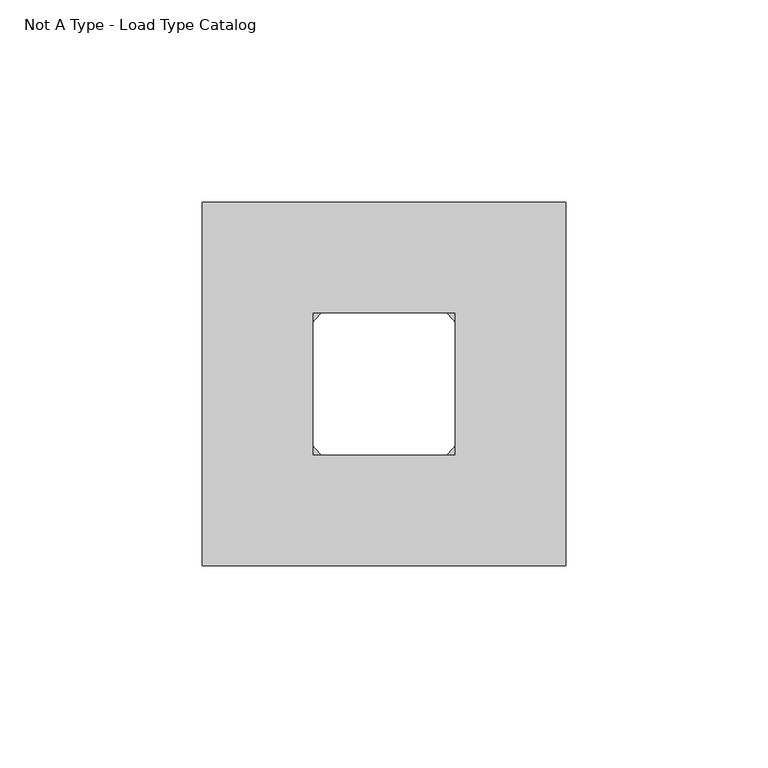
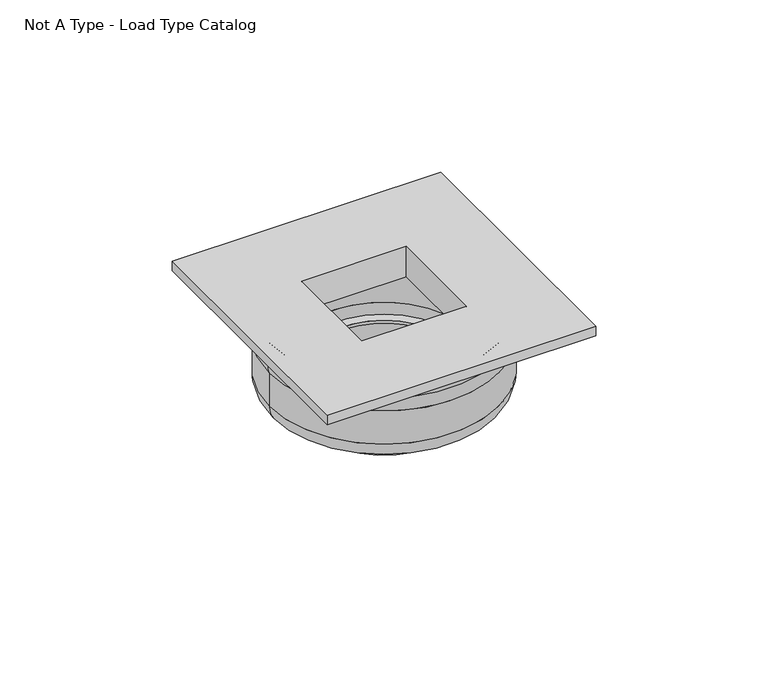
"""IFC4 building model written with IfcOpenShell, lengths in millimetres: flow terminal geometry, Lighting_Ceiling-Mounted_Lucent_Square_Edge_90 : Not A Type - Load Type Catalog."""

from ifc_helpers import new_model, si_unit, point, frame, origin, place, context, project, spatial, polyline, circle_curve, ellipse_curve, trimmed, faceted_brep, source, transform, mapped, element, save
from ifc_brep_helpers import plane_surface, cylinder_surface, revolved_surface, advanced_brep


def not_a_type_load_type_catalog_97315635(model_context):
    return source(origin(), model_context, "Body", "SolidModel", [
        advanced_brep(
        [(-23.4724039, 0.0, -22.8655633), (23.4724039, 0.0, -22.8655633), (26.5, 0.0, -22.8655633), (-26.5, 0.0, -22.8655633), (-23.4724039, 0.0, -23.8655633), (23.4724039, 0.0, -23.8655633), (-25.5, 0.0, -23.8655633), (25.5, 0.0, -23.8655633), (-25.5, 0.0, -35.4), (25.5, 0.0, -35.4), (-26.95, 0.0, -35.4), (26.95, 0.0, -35.4), (-26.95, 0.0, -23.8655633), (26.95, 0.0, -23.8655633), (-38.4932571, 0.0, -23.3812343), (38.4932571, 0.0, -23.3812343), (37.1922508, 0.0, -27.9271739), (-37.1922508, 0.0, -27.9271739), (-38.4932571, 0.0, -11.6295756), (38.4932571, 0.0, -11.6295756), (-38.496505, 0.0, -7.1468124), (38.496505, 0.0, -7.1468124), (-38.496505, 0.0, -1.3969603), (38.496505, 0.0, -1.3969603), (-39.4934653, 0.0, -0.4), (39.4934653, 0.0, -0.4), (-43.5, 0.0, -0.4), (43.5, 0.0, -0.4), (-43.5, 0.0, 0.6), (43.5, 0.0, 0.6), (-29.0363195, 0.0, 0.6), (29.0363196, 0.0, 0.6), (-35.9998111, 0.0, -0.4), (35.9998111, 0.0, -0.4), (30.0103321, 0.0, -0.4), (-30.0103321, 0.0, -0.4), (-35.9998111, 0.0, -24.4), (35.9998111, 0.0, -24.4), (-37.4215064, 0.0, -24.4), (37.4215064, 0.0, -24.4), (-36.3566832, 0.0, -27.4050533), (36.3566832, 0.0, -27.4050533), (-30.0103321, 0.0, -23.8655633), (30.0103321, 0.0, -23.8655633), (-29.0363195, 0.0, -20.3292437), (29.0363196, 0.0, -20.3292437)],
        [
            (0, 1, circle_curve(frame((0.0, 0.0, -22.8655633), z_axis=(0.0, 0.0, -1.0), x_axis=(1.0, 0.0, 0.0)), 23.4724039)),
            (1, 2),
            (2, 3, circle_curve(frame((0.0, 0.0, -22.8655633), z_axis=(0.0, 0.0, 1.0), x_axis=(1.0, 0.0, 0.0)), 26.5)),
            (3, 0),
            (1, 0, circle_curve(frame((0.0, 0.0, -22.8655633), z_axis=(0.0, 0.0, -1.0), x_axis=(1.0, 0.0, 0.0)), 23.4724039)),
            (3, 2, circle_curve(frame((0.0, 0.0, -22.8655633), z_axis=(0.0, 0.0, 1.0), x_axis=(1.0, 0.0, 0.0)), 26.5)),
            (4, 5, circle_curve(frame((0.0, 0.0, -23.8655633), z_axis=(0.0, 0.0, -1.0), x_axis=(1.0, 0.0, 0.0)), 23.4724039)),
            (5, 1),
            (0, 4),
            (5, 4, circle_curve(frame((0.0, 0.0, -23.8655633), z_axis=(0.0, 0.0, -1.0), x_axis=(1.0, 0.0, 0.0)), 23.4724039)),
            (6, 7, circle_curve(frame((0.0, 0.0, -23.8655633), z_axis=(0.0, 0.0, -1.0), x_axis=(1.0, 0.0, 0.0)), 25.5)),
            (7, 5),
            (4, 6),
            (7, 6, circle_curve(frame((0.0, 0.0, -23.8655633), z_axis=(0.0, 0.0, -1.0), x_axis=(1.0, 0.0, 0.0)), 25.5)),
            (8, 9, circle_curve(frame((0.0, 0.0, -35.4), z_axis=(0.0, 0.0, -1.0), x_axis=(1.0, 0.0, 0.0)), 25.5)),
            (9, 7),
            (6, 8),
            (9, 8, circle_curve(frame((0.0, 0.0, -35.4), z_axis=(0.0, 0.0, -1.0), x_axis=(1.0, 0.0, 0.0)), 25.5)),
            (10, 11, circle_curve(frame((0.0, 0.0, -35.4), z_axis=(0.0, 0.0, -1.0), x_axis=(1.0, 0.0, 0.0)), 26.95)),
            (11, 9),
            (8, 10),
            (11, 10, circle_curve(frame((0.0, 0.0, -35.4), z_axis=(0.0, 0.0, -1.0), x_axis=(1.0, 0.0, 0.0)), 26.95)),
            (12, 13, circle_curve(frame((0.0, 0.0, -23.8655633), z_axis=(0.0, 0.0, -1.0), x_axis=(1.0, 0.0, 0.0)), 26.95)),
            (13, 11),
            (10, 12),
            (13, 12, circle_curve(frame((0.0, 0.0, -23.8655633), z_axis=(0.0, 0.0, -1.0), x_axis=(1.0, 0.0, 0.0)), 26.95)),
            (14, 15, circle_curve(frame((0.0, 0.0, -23.3812343), z_axis=(0.0, 0.0, -1.0), x_axis=(1.0, 0.0, 0.0)), 38.4932571)),
            (15, 16, circle_curve(frame((29.9006074, 0.0, -23.3812343), z_axis=(0.0, 1.0, 0.0), x_axis=(1.0, 0.0, 0.0)), 8.5926498)),
            (16, 17, circle_curve(frame((0.0, 0.0, -27.9271739), z_axis=(0.0, 0.0, 1.0), x_axis=(1.0, 0.0, 0.0)), 37.1922508)),
            (17, 14, circle_curve(frame((-29.9006074, 0.0, -23.3812343), z_axis=(0.0, 1.0, 0.0), x_axis=(-1.0, 0.0, 0.0)), 8.5926498)),
            (15, 14, circle_curve(frame((0.0, 0.0, -23.3812343), z_axis=(0.0, 0.0, -1.0), x_axis=(1.0, 0.0, 0.0)), 38.4932571)),
            (17, 16, circle_curve(frame((0.0, 0.0, -27.9271739), z_axis=(0.0, 0.0, 1.0), x_axis=(1.0, 0.0, 0.0)), 37.1922508)),
            (18, 19, circle_curve(frame((0.0, 0.0, -11.6295756), z_axis=(0.0, 0.0, -1.0), x_axis=(1.0, 0.0, 0.0)), 38.4932571)),
            (19, 15),
            (14, 18),
            (19, 18, circle_curve(frame((0.0, 0.0, -11.6295756), z_axis=(0.0, 0.0, -1.0), x_axis=(1.0, 0.0, 0.0)), 38.4932571)),
            (20, 21, circle_curve(frame((0.0, 0.0, -7.1468124), z_axis=(0.0, 0.0, -1.0), x_axis=(1.0, 0.0, 0.0)), 38.496505)),
            (21, 19, circle_curve(frame((33.8084064, 0.0, -9.3847986), z_axis=(0.0, 1.0, 0.0), x_axis=(1.0, 0.0, 0.0)), 5.194887)),
            (18, 20, circle_curve(frame((-33.8084064, 0.0, -9.3847986), z_axis=(0.0, 1.0, 0.0), x_axis=(-1.0, 0.0, 0.0)), 5.194887)),
            (21, 20, circle_curve(frame((0.0, 0.0, -7.1468124), z_axis=(0.0, 0.0, -1.0), x_axis=(1.0, 0.0, 0.0)), 38.496505)),
            (22, 23, circle_curve(frame((0.0, 0.0, -1.3969603), z_axis=(0.0, 0.0, -1.0), x_axis=(1.0, 0.0, 0.0)), 38.496505)),
            (23, 21),
            (20, 22),
            (23, 22, circle_curve(frame((0.0, 0.0, -1.3969603), z_axis=(0.0, 0.0, -1.0), x_axis=(1.0, 0.0, 0.0)), 38.496505)),
            (24, 25, circle_curve(frame((0.0, 0.0, -0.4), z_axis=(0.0, 0.0, -1.0), x_axis=(1.0, 0.0, 0.0)), 39.4934653)),
            (25, 23, circle_curve(frame((39.4934653, 0.0, -1.3969603), z_axis=(0.0, -1.0, 0.0), x_axis=(1.0, 0.0, 0.0)), 0.9969603)),
            (22, 24, circle_curve(frame((-39.4934653, 0.0, -1.3969603), z_axis=(0.0, -1.0, 0.0), x_axis=(-1.0, 0.0, 0.0)), 0.9969603)),
            (25, 24, circle_curve(frame((0.0, 0.0, -0.4), z_axis=(0.0, 0.0, -1.0), x_axis=(1.0, 0.0, 0.0)), 39.4934653)),
            (26, 27, circle_curve(frame((0.0, 0.0, -0.4), z_axis=(0.0, 0.0, -1.0), x_axis=(1.0, 0.0, 0.0)), 43.5)),
            (27, 25),
            (24, 26),
            (27, 26, circle_curve(frame((0.0, 0.0, -0.4), z_axis=(0.0, 0.0, -1.0), x_axis=(1.0, 0.0, 0.0)), 43.5)),
            (28, 29, circle_curve(frame((0.0, 0.0, 0.6), z_axis=(0.0, 0.0, -1.0), x_axis=(1.0, 0.0, 0.0)), 43.5)),
            (29, 27),
            (26, 28),
            (29, 28, circle_curve(frame((0.0, 0.0, 0.6), z_axis=(0.0, 0.0, -1.0), x_axis=(1.0, 0.0, 0.0)), 43.5)),
            (30, 31, circle_curve(frame((0.0, 0.0, 0.6), z_axis=(0.0, 0.0, -1.0), x_axis=(1.0, 0.0, 0.0)), 29.0363195)),
            (31, 29),
            (28, 30),
            (31, 30, circle_curve(frame((0.0, 0.0, 0.6), z_axis=(0.0, 0.0, -1.0), x_axis=(1.0, 0.0, 0.0)), 29.0363195)),
            (32, 33, circle_curve(frame((0.0, 0.0, -0.4), z_axis=(0.0, 0.0, -1.0), x_axis=(1.0, 0.0, 0.0)), 35.9998111)),
            (33, 34),
            (34, 35, circle_curve(frame((0.0, 0.0, -0.4), z_axis=(0.0, 0.0, 1.0), x_axis=(1.0, 0.0, 0.0)), 30.0103321)),
            (35, 32),
            (33, 32, circle_curve(frame((0.0, 0.0, -0.4), z_axis=(0.0, 0.0, -1.0), x_axis=(1.0, 0.0, 0.0)), 35.9998111)),
            (35, 34, circle_curve(frame((0.0, 0.0, -0.4), z_axis=(0.0, 0.0, 1.0), x_axis=(1.0, 0.0, 0.0)), 30.0103321)),
            (36, 37, circle_curve(frame((0.0, 0.0, -24.4), z_axis=(0.0, 0.0, -1.0), x_axis=(1.0, 0.0, 0.0)), 35.9998111)),
            (37, 33),
            (32, 36),
            (37, 36, circle_curve(frame((0.0, 0.0, -24.4), z_axis=(0.0, 0.0, -1.0), x_axis=(1.0, 0.0, 0.0)), 35.9998111)),
            (38, 39, circle_curve(frame((0.0, 0.0, -24.4), z_axis=(0.0, 0.0, -1.0), x_axis=(1.0, 0.0, 0.0)), 37.4215064)),
            (39, 37),
            (36, 38),
            (39, 38, circle_curve(frame((0.0, 0.0, -24.4), z_axis=(0.0, 0.0, -1.0), x_axis=(1.0, 0.0, 0.0)), 37.4215064)),
            (40, 41, circle_curve(frame((0.0, 0.0, -27.4050533), z_axis=(0.0, 0.0, -1.0), x_axis=(1.0, 0.0, 0.0)), 36.3566832)),
            (41, 39, circle_curve(frame((29.9719685, 0.0, -23.451483), z_axis=(0.0, -1.0, 0.0), x_axis=(1.0, 0.0, 0.0)), 7.5096805)),
            (38, 40, circle_curve(frame((-29.9719685, 0.0, -23.451483), z_axis=(0.0, -1.0, 0.0), x_axis=(-1.0, 0.0, 0.0)), 7.5096805)),
            (41, 40, circle_curve(frame((0.0, 0.0, -27.4050533), z_axis=(0.0, 0.0, -1.0), x_axis=(1.0, 0.0, 0.0)), 36.3566832)),
            (16, 41),
            (40, 17),
            (42, 43, circle_curve(frame((0.0, 0.0, -23.8655633), z_axis=(0.0, 0.0, -1.0), x_axis=(1.0, 0.0, 0.0)), 30.0103321)),
            (43, 13),
            (12, 42),
            (43, 42, circle_curve(frame((0.0, 0.0, -23.8655633), z_axis=(0.0, 0.0, -1.0), x_axis=(1.0, 0.0, 0.0)), 30.0103321)),
            (34, 43),
            (42, 35),
            (44, 45, circle_curve(frame((0.0, 0.0, -20.3292437), z_axis=(0.0, 0.0, -1.0), x_axis=(1.0, 0.0, 0.0)), 29.0363195)),
            (45, 31),
            (30, 44),
            (45, 44, circle_curve(frame((0.0, 0.0, -20.3292437), z_axis=(0.0, 0.0, -1.0), x_axis=(1.0, 0.0, 0.0)), 29.0363195)),
            (2, 45, circle_curve(frame((26.5, 0.0, -20.3292437), z_axis=(0.0, -1.0, 0.0), x_axis=(1.0, 0.0, 0.0)), 2.5363195)),
            (44, 3, circle_curve(frame((-26.5, 0.0, -20.3292437), z_axis=(0.0, -1.0, 0.0), x_axis=(-1.0, 0.0, 0.0)), 2.5363195)),
        ],
        [
            plane_surface(frame((0.0, 0.0, -22.8655633), z_axis=(0.0, 0.0, 1.0), x_axis=(1.0, 0.0, 0.0))),
            revolved_surface(polyline([(23.4724039, 0.0, -22.8655633), (23.4724039, 0.0, -23.8655633)]), (0.0, 0.0, 26.7117569), (0.0, 0.0, 1.0)),
            plane_surface(frame((0.0, 0.0, -23.8655633), z_axis=(0.0, 0.0, -1.0), x_axis=(1.0, 0.0, 0.0))),
            revolved_surface(polyline([(25.5, 0.0, -23.8655633), (25.5, 0.0, -35.400000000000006)]), (0.0, 0.0, 26.7117569), (0.0, 0.0, 1.0)),
            plane_surface(frame((0.0, 0.0, -35.4), z_axis=(0.0, 0.0, -1.0), x_axis=(1.0, 0.0, 0.0))),
            cylinder_surface(frame((0.0, 0.0, 26.7117569), z_axis=(0.0, 0.0, 1.0), x_axis=(1.0, 0.0, 0.0)), 26.95),
            revolved_surface(trimmed(ellipse_curve(frame((29.9006074, 0.0, -23.3812343), z_axis=(0.0, -1.0, 0.0), x_axis=(1.0, 0.0, 0.0)), 8.5926498, 8.5926498), [point((37.1922508, 0.0, -27.9271739))], [point((38.4932571, 0.0, -23.3812343))], True, "CARTESIAN"), (0.0, 0.0, 26.7117569), (0.0, 0.0, 1.0)),
            cylinder_surface(frame((0.0, 0.0, 26.7117569), z_axis=(0.0, 0.0, 1.0), x_axis=(1.0, 0.0, 0.0)), 38.4932571),
            revolved_surface(trimmed(ellipse_curve(frame((33.8084064, 0.0, -9.3847986), z_axis=(0.0, -1.0, 0.0), x_axis=(1.0, 0.0, 0.0)), 5.194887, 5.194887), [point((38.4932571, 0.0, -11.6295756))], [point((38.496505, 0.0, -7.1468124))], True, "CARTESIAN"), (0.0, 0.0, 26.7117569), (0.0, 0.0, 1.0)),
            cylinder_surface(frame((0.0, 0.0, 26.7117569), z_axis=(0.0, 0.0, 1.0), x_axis=(1.0, 0.0, 0.0)), 38.496505),
            revolved_surface(trimmed(ellipse_curve(frame((39.4934653, 0.0, -1.3969603), z_axis=(0.0, 1.0, 0.0), x_axis=(1.0, 0.0, 0.0)), 0.9969603, 0.9969603), [point((38.496505, 0.0, -1.3969603))], [point((39.4934653, 0.0, -0.4))], True, "CARTESIAN"), (0.0, 0.0, 26.7117569), (0.0, 0.0, 1.0)),
            plane_surface(frame((0.0, 0.0, -0.4), z_axis=(0.0, 0.0, -1.0), x_axis=(1.0, 0.0, 0.0))),
            cylinder_surface(frame((0.0, 0.0, 26.7117569), z_axis=(0.0, 0.0, 1.0), x_axis=(1.0, 0.0, 0.0)), 43.5),
            plane_surface(frame((0.0, 0.0, 0.6), z_axis=(0.0, 0.0, 1.0), x_axis=(1.0, 0.0, 0.0))),
            revolved_surface(polyline([(35.9998111, 0.0, -0.3999999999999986), (35.9998111, 0.0, -24.400000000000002)]), (0.0, 0.0, 26.7117569), (0.0, 0.0, 1.0)),
            plane_surface(frame((0.0, 0.0, -24.4), z_axis=(0.0, 0.0, -1.0), x_axis=(1.0, 0.0, 0.0))),
            revolved_surface(trimmed(ellipse_curve(frame((29.9719685, 0.0, -23.451483), z_axis=(0.0, 1.0, 0.0), x_axis=(1.0, 0.0, 0.0)), 7.5096805, 7.5096805), [point((37.4215064, 0.0, -24.4))], [point((36.3566832, 0.0, -27.4050533))], True, "CARTESIAN"), (0.0, 0.0, 26.7117569), (0.0, 0.0, 1.0)),
            revolved_surface(polyline([(36.3566832, 0.0, -27.4050533), (37.1922508, 0.0, -27.9271739)]), (0.0, 0.0, 26.7117569), (0.0, 0.0, 1.0)),
            cylinder_surface(frame((0.0, 0.0, 26.7117569), z_axis=(0.0, 0.0, 1.0), x_axis=(1.0, 0.0, 0.0)), 30.0103321),
            revolved_surface(polyline([(29.0363195, 0.0, 0.6000000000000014), (29.0363195, 0.0, -20.329243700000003)]), (0.0, 0.0, 26.7117569), (0.0, 0.0, 1.0)),
            revolved_surface(trimmed(ellipse_curve(frame((26.5, 0.0, -20.3292437), z_axis=(0.0, 1.0, 0.0), x_axis=(1.0, 0.0, 0.0)), 2.5363195, 2.5363195), [point((29.0363196, 0.0, -20.3292437))], [point((26.5, 0.0, -22.8655633))], True, "CARTESIAN"), (0.0, 0.0, 26.7117569), (0.0, 0.0, 1.0)),
        ],
        [
            (0, [[1, 2, 3, 4]]),
            (0, [[5, -4, 6, -2]]),
            (1, [[7, 8, -1, 9]]),
            (1, [[10, -9, -5, -8]]),
            (2, [[11, 12, -7, 13]]),
            (2, [[14, -13, -10, -12]]),
            (3, [[15, 16, -11, 17]]),
            (3, [[18, -17, -14, -16]]),
            (4, [[19, 20, -15, 21]]),
            (4, [[22, -21, -18, -20]]),
            (5, [[23, 24, -19, 25]]),
            (5, [[26, -25, -22, -24]]),
            (6, [[27, 28, 29, 30]]),
            (6, [[31, -30, 32, -28]]),
            (7, [[33, 34, -27, 35]]),
            (7, [[36, -35, -31, -34]]),
            (8, [[37, 38, -33, 39]]),
            (8, [[40, -39, -36, -38]]),
            (9, [[41, 42, -37, 43]]),
            (9, [[44, -43, -40, -42]]),
            (10, [[45, 46, -41, 47]]),
            (10, [[48, -47, -44, -46]]),
            (11, [[49, 50, -45, 51]]),
            (11, [[52, -51, -48, -50]]),
            (12, [[53, 54, -49, 55]]),
            (12, [[56, -55, -52, -54]]),
            (13, [[57, 58, -53, 59]]),
            (13, [[60, -59, -56, -58]]),
            (11, [[61, 62, 63, 64]]),
            (11, [[65, -64, 66, -62]]),
            (14, [[67, 68, -61, 69]]),
            (14, [[70, -69, -65, -68]]),
            (15, [[71, 72, -67, 73]]),
            (15, [[74, -73, -70, -72]]),
            (16, [[75, 76, -71, 77]]),
            (16, [[78, -77, -74, -76]]),
            (17, [[-29, 79, -75, 80]]),
            (17, [[-32, -80, -78, -79]]),
            (2, [[81, 82, -23, 83]]),
            (2, [[84, -83, -26, -82]]),
            (18, [[-63, 85, -81, 86]]),
            (18, [[-66, -86, -84, -85]]),
            (19, [[87, 88, -57, 89]]),
            (19, [[90, -89, -60, -88]]),
            (20, [[-3, 91, -87, 92]]),
            (20, [[-6, -92, -90, -91]]),
        ],
    ),
        faceted_brep([(20.5015906, 20.5, -7.68125), (20.5015906, -20.5, -7.68125), (-20.5015906, -20.5, -7.68125), (-20.5015906, 20.5, -7.68125), (17.5, 17.5, -7.68125), (-17.5, 17.5, -7.68125), (-17.5, -17.5, -7.68125), (17.5, -17.5, -7.68125), (17.5, -17.5, 3.0), (17.5, 17.5, 3.0), (-17.5, -17.5, 3.0), (-17.5, 17.5, 3.0), (-20.5015906, 20.5, -0.4), (20.5015906, 20.5, -0.4), (-20.5015906, -20.5, -0.4), (20.5015906, -20.5, -0.4), (-45.0, 45.0, 3.0), (-45.0, -45.0, 3.0), (45.0, -45.0, 3.0), (45.0, 45.0, 3.0), (-45.0, 45.0, -0.4), (45.0, 45.0, -0.4), (45.0, -45.0, -0.4), (-45.0, -45.0, -0.4)], [[[0, 1, 2, 3], [4, 5, 6, 7]], [[4, 7, 8, 9]], [[8, 7, 6, 10]], [[10, 6, 5, 11]], [[11, 5, 4, 9]], [[0, 3, 12, 13]], [[3, 2, 14, 12]], [[2, 1, 15, 14]], [[1, 0, 13, 15]], [[16, 17, 18, 19], [11, 9, 8, 10]], [[20, 21, 22, 23], [13, 12, 14, 15]], [[17, 16, 20, 23]], [[18, 17, 23, 22]], [[19, 18, 22, 21]], [[16, 19, 21, 20]]]),
    ])


if __name__ == "__main__":
    model = new_model("IFC4")
    model_context = context("Model", 3, world=origin())
    ifc_project = project(units=[si_unit("LENGTHUNIT", "METRE", prefix="MILLI")], contexts=[model_context])
    site = spatial("IfcSite", under=ifc_project)
    building = spatial("IfcBuilding", under=site)
    placement = place(None, origin())
    not_a_type_load_type_catalog_shape = not_a_type_load_type_catalog_97315635(model_context)
    element("IfcFlowTerminal", 1, ObjectType="Lighting_Ceiling-Mounted_Lucent_Square_Edge_90 : Not A Type - Load Type Catalog", at=placement, inside=building, context=model_context, shape_type="MappedRepresentation", body=[
        mapped(not_a_type_load_type_catalog_shape, transform((0.0, 0.0, 0.0), x_axis=(1.0, 0.0, 0.0), y_axis=(0.0, 1.0, 0.0), z_axis=(0.0, 0.0, 1.0))),
    ])
    save(model, "model.ifc")
